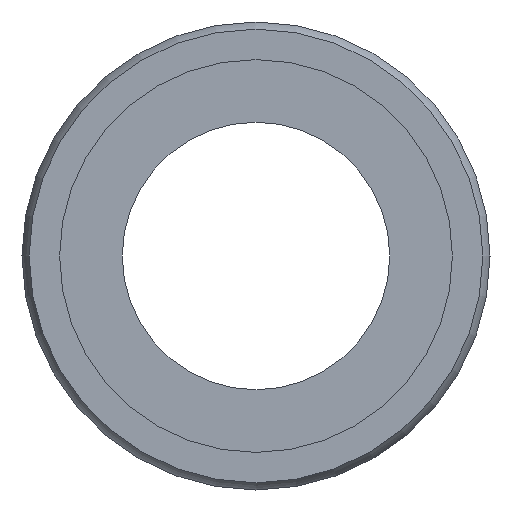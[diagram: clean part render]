
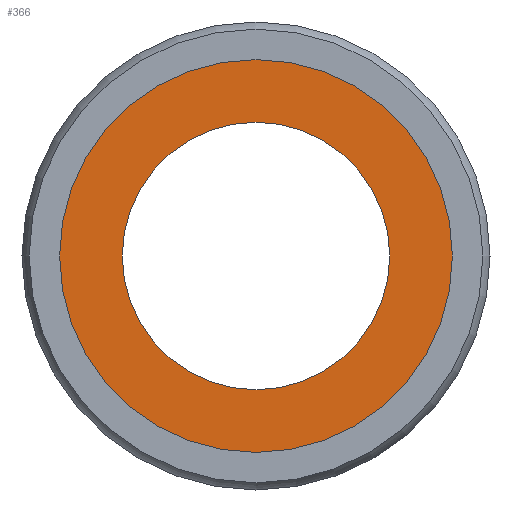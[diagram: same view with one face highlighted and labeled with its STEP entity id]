
A CAD part, left-side view. The second image highlights one B-rep face of the part: STEP entity #366.
In plain terms, the highlighted planar face has unit normal (-1, 0, 0).
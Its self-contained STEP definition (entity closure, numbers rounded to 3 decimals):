
#339=CARTESIAN_POINT('',(0.1,0.0,9.875));
#340=DIRECTION('',(-1.0,0.0,0.0));
#341=DIRECTION('',(0.0,0.0,1.0));
#342=AXIS2_PLACEMENT_3D('',#339,#340,#341);
#343=PLANE('',#342);
#344=CARTESIAN_POINT('',(0.1,0.0,11.75));
#345=VERTEX_POINT('',#344);
#346=CARTESIAN_POINT('',(0.1,0.0,0.));
#347=DIRECTION('',(1.0,0.0,0.0));
#348=DIRECTION('',(0.0,0.0,1.0));
#349=AXIS2_PLACEMENT_3D('',#346,#347,#348);
#350=CIRCLE('',#349,11.75);
#351=EDGE_CURVE('',#345,#345,#350,.T.);
#352=ORIENTED_EDGE('',*,*,#351,.F.);
#353=EDGE_LOOP('',(#352));
#354=FACE_OUTER_BOUND('',#353,.T.);
#355=CARTESIAN_POINT('',(0.1,0.0,8.));
#356=VERTEX_POINT('',#355);
#357=CARTESIAN_POINT('',(0.1,0.0,0.));
#358=DIRECTION('',(-1.0,0.0,0.0));
#359=DIRECTION('',(0.0,0.0,1.0));
#360=AXIS2_PLACEMENT_3D('',#357,#358,#359);
#361=CIRCLE('',#360,8.);
#362=EDGE_CURVE('',#356,#356,#361,.T.);
#363=ORIENTED_EDGE('',*,*,#362,.F.);
#364=EDGE_LOOP('',(#363));
#365=FACE_BOUND('',#364,.T.);
#366=ADVANCED_FACE('',(#354,#365),#343,.T.);
